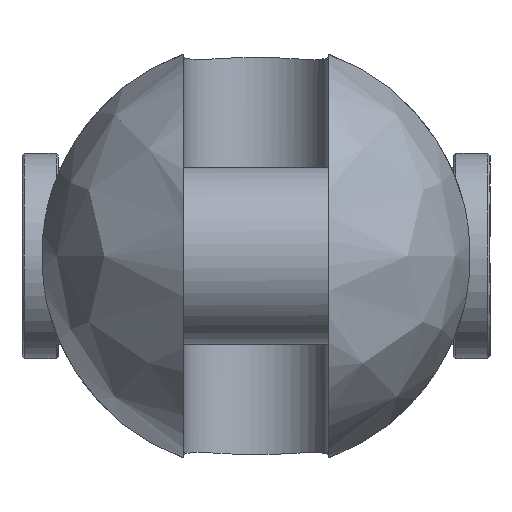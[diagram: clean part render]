
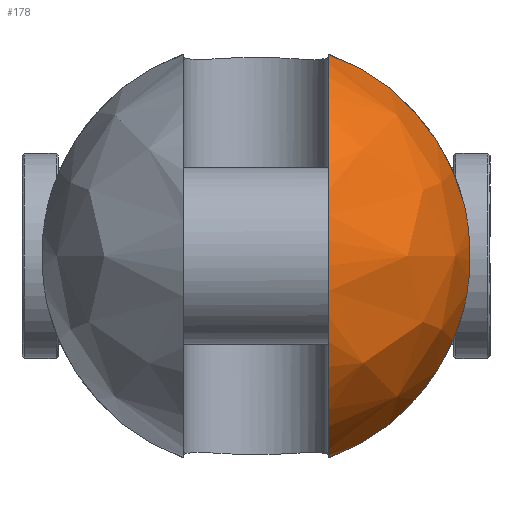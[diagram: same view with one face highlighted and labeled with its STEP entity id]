
A CAD part, left-side view. The second image highlights one B-rep face of the part: STEP entity #178.
In plain terms, the highlighted free-form (B-spline) face has degree [2, 2] with [9, 5] control points.
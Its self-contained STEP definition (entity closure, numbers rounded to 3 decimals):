
#178=ADVANCED_FACE('',(#318),#2404,.T.);
#318=FACE_OUTER_BOUND('',#478,.T.);
#478=EDGE_LOOP('',(#1187,#1188,#1189,#1190));
#1187=ORIENTED_EDGE('',*,*,#1570,.T.);
#1188=ORIENTED_EDGE('',*,*,#1594,.F.);
#1189=ORIENTED_EDGE('',*,*,#1606,.T.);
#1190=ORIENTED_EDGE('',*,*,#1586,.F.);
#1570=EDGE_CURVE('',#2237,#2236,#1972,.T.);
#1586=EDGE_CURVE('',#2237,#2249,#1982,.T.);
#1594=EDGE_CURVE('',#2256,#2236,#1983,.T.);
#1606=EDGE_CURVE('',#2256,#2249,#1779,.T.);
#1779=B_SPLINE_CURVE_WITH_KNOTS('',3,(#6098,#6099,#6100,#6101,#6102,#6103,
#6104,#6105,#6106,#6107,#6108,#6109,#6110,#6111),.UNSPECIFIED.,.F.,.F.,
(4,2,2,2,2,2,4),(0.,1.446,6.787,12.128,
17.469,22.81,24.256),.UNSPECIFIED.);
#1972=(
BOUNDED_CURVE()
B_SPLINE_CURVE(2,(#5874,#5875,#5876,#5877,#5878),.UNSPECIFIED.,.F.,.F.)
B_SPLINE_CURVE_WITH_KNOTS((3,2,3),(-138.836,-69.418,
0.),.UNSPECIFIED.)
CURVE()
GEOMETRIC_REPRESENTATION_ITEM()
RATIONAL_B_SPLINE_CURVE((1.,0.707,1.,0.707,1.))
REPRESENTATION_ITEM('')
);
#1982=(
BOUNDED_CURVE()
B_SPLINE_CURVE(2,(#5968,#5969,#5970),.UNSPECIFIED.,.F.,.F.)
B_SPLINE_CURVE_WITH_KNOTS((3,3),(0.,45.894),.UNSPECIFIED.)
CURVE()
GEOMETRIC_REPRESENTATION_ITEM()
RATIONAL_B_SPLINE_CURVE((1.,0.883,1.))
REPRESENTATION_ITEM('')
);
#1983=(
BOUNDED_CURVE()
B_SPLINE_CURVE(2,(#6025,#6026,#6027),.UNSPECIFIED.,.F.,.F.)
B_SPLINE_CURVE_WITH_KNOTS((3,3),(0.,45.894),.UNSPECIFIED.)
CURVE()
GEOMETRIC_REPRESENTATION_ITEM()
RATIONAL_B_SPLINE_CURVE((1.,0.883,1.))
REPRESENTATION_ITEM('')
);
#2236=VERTEX_POINT('',#5734);
#2237=VERTEX_POINT('',#5735);
#2249=VERTEX_POINT('',#5747);
#2256=VERTEX_POINT('',#5754);
#2404=(
BOUNDED_SURFACE()
B_SPLINE_SURFACE(2,2,((#5448,#5449,#5450,#5451,#5452),(#5453,#5454,#5455,
#5456,#5457),(#5458,#5459,#5460,#5461,#5462),(#5463,#5464,#5465,#5466,#5467),
(#5468,#5469,#5470,#5471,#5472),(#5473,#5474,#5475,#5476,#5477),(#5478,
#5479,#5480,#5481,#5482),(#5483,#5484,#5485,#5486,#5487),(#5488,#5489,#5490,
#5491,#5492)),.UNSPECIFIED.,.T.,.F.,.F.)
B_SPLINE_SURFACE_WITH_KNOTS((3,2,2,2,3),(3,2,3),(0.,73.827,147.655,
221.482,295.31),(0.,73.827,147.655),
 .UNSPECIFIED.)
GEOMETRIC_REPRESENTATION_ITEM()
RATIONAL_B_SPLINE_SURFACE(((1.,0.707,1.,0.707,1.),
(0.707,0.5,0.707,0.5,0.707),(1.,0.707,
1.,0.707,1.),(0.707,0.5,0.707,0.5,0.707),
(1.,0.707,1.,0.707,1.),(0.707,0.5,0.707,
0.5,0.707),(1.,0.707,1.,0.707,1.),(0.707,
0.5,0.707,0.5,0.707),(1.,0.707,1.,0.707,
1.)))
REPRESENTATION_ITEM('')
SURFACE()
);
#5448=CARTESIAN_POINT('',(-67.5,0.,0.));
#5449=CARTESIAN_POINT('',(-67.5,47.,0.));
#5450=CARTESIAN_POINT('',(-20.5,47.,0.));
#5451=CARTESIAN_POINT('',(26.5,47.,0.));
#5452=CARTESIAN_POINT('',(26.5,0.,0.));
#5453=CARTESIAN_POINT('',(-67.5,0.,0.));
#5454=CARTESIAN_POINT('',(-67.5,47.,47.));
#5455=CARTESIAN_POINT('',(-20.5,47.,47.));
#5456=CARTESIAN_POINT('',(26.5,47.,47.));
#5457=CARTESIAN_POINT('',(26.5,0.,0.));
#5458=CARTESIAN_POINT('',(-67.5,0.,0.));
#5459=CARTESIAN_POINT('',(-67.5,0.,47.));
#5460=CARTESIAN_POINT('',(-20.5,0.,47.));
#5461=CARTESIAN_POINT('',(26.5,0.,47.));
#5462=CARTESIAN_POINT('',(26.5,0.,0.));
#5463=CARTESIAN_POINT('',(-67.5,0.,0.));
#5464=CARTESIAN_POINT('',(-67.5,-47.,47.));
#5465=CARTESIAN_POINT('',(-20.5,-47.,47.));
#5466=CARTESIAN_POINT('',(26.5,-47.,47.));
#5467=CARTESIAN_POINT('',(26.5,0.,0.));
#5468=CARTESIAN_POINT('',(-67.5,0.,0.));
#5469=CARTESIAN_POINT('',(-67.5,-47.,0.));
#5470=CARTESIAN_POINT('',(-20.5,-47.,0.));
#5471=CARTESIAN_POINT('',(26.5,-47.,0.));
#5472=CARTESIAN_POINT('',(26.5,0.,0.));
#5473=CARTESIAN_POINT('',(-67.5,0.,0.));
#5474=CARTESIAN_POINT('',(-67.5,-47.,-47.));
#5475=CARTESIAN_POINT('',(-20.5,-47.,-47.));
#5476=CARTESIAN_POINT('',(26.5,-47.,-47.));
#5477=CARTESIAN_POINT('',(26.5,0.,0.));
#5478=CARTESIAN_POINT('',(-67.5,0.,0.));
#5479=CARTESIAN_POINT('',(-67.5,0.,-47.));
#5480=CARTESIAN_POINT('',(-20.5,0.,-47.));
#5481=CARTESIAN_POINT('',(26.5,0.,-47.));
#5482=CARTESIAN_POINT('',(26.5,0.,0.));
#5483=CARTESIAN_POINT('',(-67.5,0.,0.));
#5484=CARTESIAN_POINT('',(-67.5,47.,-47.));
#5485=CARTESIAN_POINT('',(-20.5,47.,-47.));
#5486=CARTESIAN_POINT('',(26.5,47.,-47.));
#5487=CARTESIAN_POINT('',(26.5,0.,0.));
#5488=CARTESIAN_POINT('',(-67.5,0.,0.));
#5489=CARTESIAN_POINT('',(-67.5,47.,0.));
#5490=CARTESIAN_POINT('',(-20.5,47.,0.));
#5491=CARTESIAN_POINT('',(26.5,47.,0.));
#5492=CARTESIAN_POINT('',(26.5,0.,0.));
#5734=CARTESIAN_POINT('',(-20.5,-16.,-44.193));
#5735=CARTESIAN_POINT('',(-20.5,-16.,44.193));
#5747=CARTESIAN_POINT('',(-20.5,-45.574,11.489));
#5754=CARTESIAN_POINT('',(-20.5,-45.574,-11.489));
#5874=CARTESIAN_POINT('',(-20.5,-16.,44.193));
#5875=CARTESIAN_POINT('',(-64.693,-16.,44.193));
#5876=CARTESIAN_POINT('',(-64.693,-16.,0.));
#5877=CARTESIAN_POINT('',(-64.693,-16.,-44.193));
#5878=CARTESIAN_POINT('',(-20.5,-16.,-44.193));
#5968=CARTESIAN_POINT('',(-20.5,-16.,44.193));
#5969=CARTESIAN_POINT('',(-20.5,-39.472,35.695));
#5970=CARTESIAN_POINT('',(-20.5,-45.574,11.489));
#6025=CARTESIAN_POINT('',(-20.5,-45.574,-11.489));
#6026=CARTESIAN_POINT('',(-20.5,-39.472,-35.695));
#6027=CARTESIAN_POINT('',(-20.5,-16.,-44.193));
#6098=CARTESIAN_POINT('',(-20.5,-45.574,-11.489));
#6099=CARTESIAN_POINT('',(-20.733,-45.679,-11.073));
#6100=CARTESIAN_POINT('',(-20.954,-45.778,-10.65));
#6101=CARTESIAN_POINT('',(-21.93,-46.214,-8.628));
#6102=CARTESIAN_POINT('',(-22.523,-46.475,-6.936));
#6103=CARTESIAN_POINT('',(-23.308,-46.82,-3.482));
#6104=CARTESIAN_POINT('',(-23.5,-46.904,-1.721));
#6105=CARTESIAN_POINT('',(-23.5,-46.904,1.721));
#6106=CARTESIAN_POINT('',(-23.308,-46.82,3.482));
#6107=CARTESIAN_POINT('',(-22.523,-46.475,6.936));
#6108=CARTESIAN_POINT('',(-21.93,-46.214,8.628));
#6109=CARTESIAN_POINT('',(-20.954,-45.778,10.65));
#6110=CARTESIAN_POINT('',(-20.733,-45.679,11.073));
#6111=CARTESIAN_POINT('',(-20.5,-45.574,11.489));
